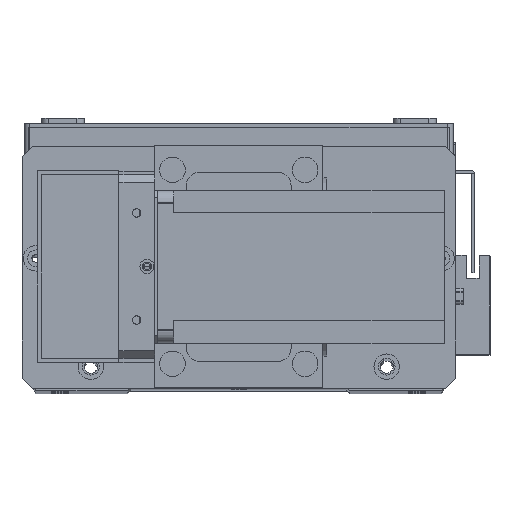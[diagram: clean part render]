
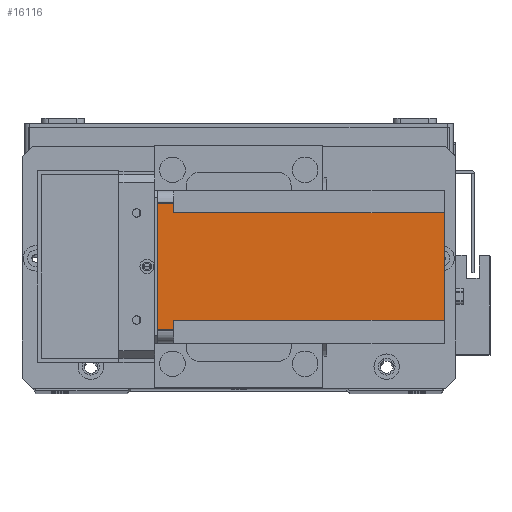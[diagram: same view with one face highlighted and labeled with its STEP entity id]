
A CAD part, top view. The second image highlights one B-rep face of the part: STEP entity #16116.
In plain terms, the highlighted planar face has unit normal (0, 0, 1) as drawn and (-1, 0, 0) by its records, which use the part's own axes.
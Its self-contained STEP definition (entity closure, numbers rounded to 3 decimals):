
#258 = VERTEX_POINT ( 'NONE', #9758 ) ;
#466 = DIRECTION ( 'NONE',  ( 0., -1., 0. ) ) ;
#534 = ORIENTED_EDGE ( 'NONE', *, *, #15198, .T. ) ;
#1165 = VECTOR ( 'NONE', #1679, 1000. ) ;
#1223 = VERTEX_POINT ( 'NONE', #26537 ) ;
#1679 = DIRECTION ( 'NONE',  ( 0., 0., -1. ) ) ;
#2035 = CARTESIAN_POINT ( 'NONE',  ( 0., 5., -6.5 ) ) ;
#2351 = DIRECTION ( 'NONE',  ( -1., 0., 0. ) ) ;
#2478 = EDGE_CURVE ( 'NONE', #25266, #21824, #17070, .T. ) ;
#2851 = CARTESIAN_POINT ( 'NONE',  ( 0., 55., -6.5 ) ) ;
#2907 = DIRECTION ( 'NONE',  ( 0., 0., -1. ) ) ;
#2943 = CARTESIAN_POINT ( 'NONE',  ( 0., 5., 0. ) ) ;
#3728 = VECTOR ( 'NONE', #2907, 1000. ) ;
#4256 = DIRECTION ( 'NONE',  ( 0., 0., 1. ) ) ;
#4491 = LINE ( 'NONE', #14881, #3728 ) ;
#5328 = CARTESIAN_POINT ( 'NONE',  ( 0., 0., 0. ) ) ;
#6933 = EDGE_CURVE ( 'NONE', #24116, #25266, #8307, .T. ) ;
#7020 = DIRECTION ( 'NONE',  ( 0., 0., 1. ) ) ;
#8307 = LINE ( 'NONE', #14286, #27496 ) ;
#9143 = DIRECTION ( 'NONE',  ( 0., -1., 0. ) ) ;
#9758 = CARTESIAN_POINT ( 'NONE',  ( 0., 55., 0. ) ) ;
#9814 = ORIENTED_EDGE ( 'NONE', *, *, #24369, .F. ) ;
#10017 = ORIENTED_EDGE ( 'NONE', *, *, #10742, .T. ) ;
#10742 = EDGE_CURVE ( 'NONE', #19336, #18530, #16814, .T. ) ;
#10863 = VERTEX_POINT ( 'NONE', #14470 ) ;
#11927 = PLANE ( 'NONE',  #17214 ) ;
#13973 = LINE ( 'NONE', #23325, #1165 ) ;
#14286 = CARTESIAN_POINT ( 'NONE',  ( 0., 51., -112.5 ) ) ;
#14470 = CARTESIAN_POINT ( 'NONE',  ( 0., 9., -6.5 ) ) ;
#14495 = LINE ( 'NONE', #23958, #26526 ) ;
#14881 = CARTESIAN_POINT ( 'NONE',  ( 0., 9., -112.5 ) ) ;
#15198 = EDGE_CURVE ( 'NONE', #258, #21824, #13973, .T. ) ;
#16104 = VECTOR ( 'NONE', #9143, 1000. ) ;
#16116 = ADVANCED_FACE ( 'NONE', ( #28195 ), #11927, .T. ) ;
#16294 = VECTOR ( 'NONE', #16869, 1000. ) ;
#16814 = LINE ( 'NONE', #18642, #22464 ) ;
#16869 = DIRECTION ( 'NONE',  ( 0., 1., 0. ) ) ;
#17070 = LINE ( 'NONE', #19307, #16294 ) ;
#17214 = AXIS2_PLACEMENT_3D ( 'NONE', #19047, #2351, #19157 ) ;
#18262 = EDGE_CURVE ( 'NONE', #24116, #1223, #23264, .T. ) ;
#18530 = VERTEX_POINT ( 'NONE', #2943 ) ;
#18642 = CARTESIAN_POINT ( 'NONE',  ( 0., 5., -112.5 ) ) ;
#18648 = CARTESIAN_POINT ( 'NONE',  ( 0., 51., -112.5 ) ) ;
#18851 = ORIENTED_EDGE ( 'NONE', *, *, #18262, .T. ) ;
#19047 = CARTESIAN_POINT ( 'NONE',  ( 0., 0., -112.5 ) ) ;
#19157 = DIRECTION ( 'NONE',  ( 0., -1., 0. ) ) ;
#19307 = CARTESIAN_POINT ( 'NONE',  ( 0., 60., -6.5 ) ) ;
#19336 = VERTEX_POINT ( 'NONE', #2035 ) ;
#20815 = EDGE_CURVE ( 'NONE', #258, #18530, #23160, .T. ) ;
#21235 = ORIENTED_EDGE ( 'NONE', *, *, #27092, .F. ) ;
#21309 = EDGE_LOOP ( 'NONE', ( #21235, #10017, #24565, #534, #26491, #27773, #18851, #9814 ) ) ;
#21824 = VERTEX_POINT ( 'NONE', #2851 ) ;
#22464 = VECTOR ( 'NONE', #4256, 1000. ) ;
#23160 = LINE ( 'NONE', #5328, #29604 ) ;
#23264 = LINE ( 'NONE', #23540, #16104 ) ;
#23325 = CARTESIAN_POINT ( 'NONE',  ( 0., 55., -112.5 ) ) ;
#23540 = CARTESIAN_POINT ( 'NONE',  ( 0., 0., -112.5 ) ) ;
#23958 = CARTESIAN_POINT ( 'NONE',  ( 0., 0., -6.5 ) ) ;
#24116 = VERTEX_POINT ( 'NONE', #18648 ) ;
#24369 = EDGE_CURVE ( 'NONE', #10863, #1223, #4491, .T. ) ;
#24565 = ORIENTED_EDGE ( 'NONE', *, *, #20815, .F. ) ;
#25266 = VERTEX_POINT ( 'NONE', #25467 ) ;
#25467 = CARTESIAN_POINT ( 'NONE',  ( 0., 51., -6.5 ) ) ;
#26382 = DIRECTION ( 'NONE',  ( 0., 1., 0. ) ) ;
#26491 = ORIENTED_EDGE ( 'NONE', *, *, #2478, .F. ) ;
#26526 = VECTOR ( 'NONE', #26382, 1000. ) ;
#26537 = CARTESIAN_POINT ( 'NONE',  ( 0., 9., -112.5 ) ) ;
#27092 = EDGE_CURVE ( 'NONE', #19336, #10863, #14495, .T. ) ;
#27496 = VECTOR ( 'NONE', #7020, 1000. ) ;
#27773 = ORIENTED_EDGE ( 'NONE', *, *, #6933, .F. ) ;
#28195 = FACE_OUTER_BOUND ( 'NONE', #21309, .T. ) ;
#29604 = VECTOR ( 'NONE', #466, 1000. ) ;
